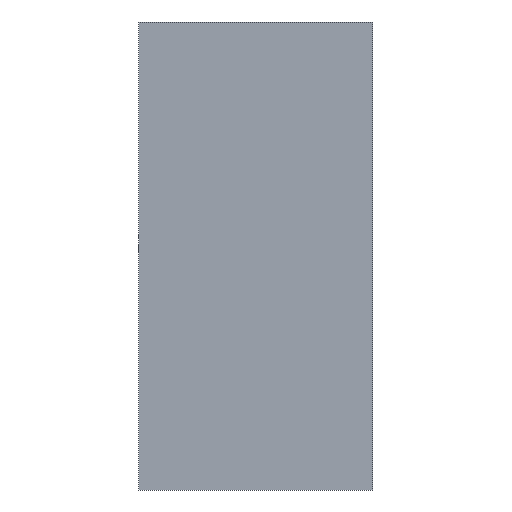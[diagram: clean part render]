
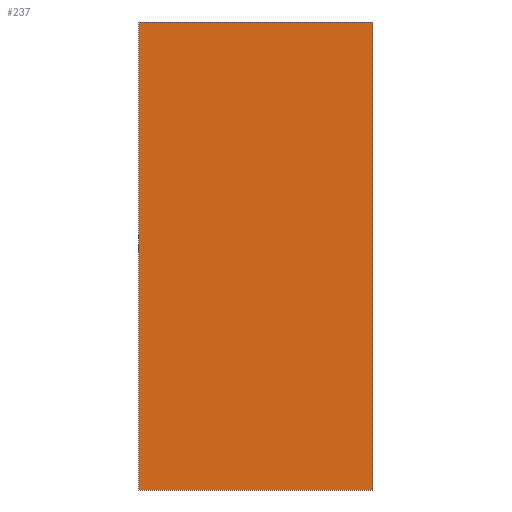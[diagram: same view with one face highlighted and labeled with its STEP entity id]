
A CAD part, front view. The second image highlights one B-rep face of the part: STEP entity #237.
In plain terms, the highlighted planar face has unit normal (0, -1, 0).
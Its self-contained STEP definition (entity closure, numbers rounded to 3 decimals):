
#21 = EDGE_CURVE('',#22,#24,#26,.T.);
#22 = VERTEX_POINT('',#23);
#23 = CARTESIAN_POINT('',(1370.,-180.,-230.));
#24 = VERTEX_POINT('',#25);
#25 = CARTESIAN_POINT('',(1370.,-180.,-170.));
#26 = SURFACE_CURVE('',#27,(#31,#43),.PCURVE_S1.);
#27 = LINE('',#28,#29);
#28 = CARTESIAN_POINT('',(1370.,-180.,-230.));
#29 = VECTOR('',#30,1.);
#30 = DIRECTION('',(0.,0.,1.));
#31 = PCURVE('',#32,#37);
#32 = PLANE('',#33);
#33 = AXIS2_PLACEMENT_3D('',#34,#35,#36);
#34 = CARTESIAN_POINT('',(1370.,-180.,-230.));
#35 = DIRECTION('',(1.,0.,0.));
#36 = DIRECTION('',(0.,0.,1.));
#37 = DEFINITIONAL_REPRESENTATION('',(#38),#42);
#38 = LINE('',#39,#40);
#39 = CARTESIAN_POINT('',(0.,0.));
#40 = VECTOR('',#41,1.);
#41 = DIRECTION('',(1.,0.));
#42 = ( GEOMETRIC_REPRESENTATION_CONTEXT(2) 
PARAMETRIC_REPRESENTATION_CONTEXT() REPRESENTATION_CONTEXT('2D SPACE',''
  ) );
#43 = PCURVE('',#44,#49);
#44 = PLANE('',#45);
#45 = AXIS2_PLACEMENT_3D('',#46,#47,#48);
#46 = CARTESIAN_POINT('',(1370.,-180.,-230.));
#47 = DIRECTION('',(0.,1.,0.));
#48 = DIRECTION('',(0.,0.,1.));
#49 = DEFINITIONAL_REPRESENTATION('',(#50),#54);
#50 = LINE('',#51,#52);
#51 = CARTESIAN_POINT('',(0.,0.));
#52 = VECTOR('',#53,1.);
#53 = DIRECTION('',(1.,0.));
#54 = ( GEOMETRIC_REPRESENTATION_CONTEXT(2) 
PARAMETRIC_REPRESENTATION_CONTEXT() REPRESENTATION_CONTEXT('2D SPACE',''
  ) );
#72 = PLANE('',#73);
#73 = AXIS2_PLACEMENT_3D('',#74,#75,#76);
#74 = CARTESIAN_POINT('',(1370.,-180.,-230.));
#75 = DIRECTION('',(0.,0.,1.));
#76 = DIRECTION('',(1.,0.,0.));
#126 = PLANE('',#127);
#127 = AXIS2_PLACEMENT_3D('',#128,#129,#130);
#128 = CARTESIAN_POINT('',(1370.,-180.,-170.));
#129 = DIRECTION('',(0.,0.,1.));
#130 = DIRECTION('',(1.,0.,0.));
#141 = EDGE_CURVE('',#142,#144,#146,.T.);
#142 = VERTEX_POINT('',#143);
#143 = CARTESIAN_POINT('',(1400.,-180.,-230.));
#144 = VERTEX_POINT('',#145);
#145 = CARTESIAN_POINT('',(1400.,-180.,-170.));
#146 = SURFACE_CURVE('',#147,(#151,#163),.PCURVE_S1.);
#147 = LINE('',#148,#149);
#148 = CARTESIAN_POINT('',(1400.,-180.,-230.));
#149 = VECTOR('',#150,1.);
#150 = DIRECTION('',(0.,0.,1.));
#151 = PCURVE('',#152,#157);
#152 = PLANE('',#153);
#153 = AXIS2_PLACEMENT_3D('',#154,#155,#156);
#154 = CARTESIAN_POINT('',(1400.,-180.,-230.));
#155 = DIRECTION('',(1.,0.,0.));
#156 = DIRECTION('',(0.,0.,1.));
#157 = DEFINITIONAL_REPRESENTATION('',(#158),#162);
#158 = LINE('',#159,#160);
#159 = CARTESIAN_POINT('',(0.,0.));
#160 = VECTOR('',#161,1.);
#161 = DIRECTION('',(1.,0.));
#162 = ( GEOMETRIC_REPRESENTATION_CONTEXT(2) 
PARAMETRIC_REPRESENTATION_CONTEXT() REPRESENTATION_CONTEXT('2D SPACE',''
  ) );
#163 = PCURVE('',#44,#164);
#164 = DEFINITIONAL_REPRESENTATION('',(#165),#169);
#165 = LINE('',#166,#167);
#166 = CARTESIAN_POINT('',(0.,30.));
#167 = VECTOR('',#168,1.);
#168 = DIRECTION('',(1.,0.));
#169 = ( GEOMETRIC_REPRESENTATION_CONTEXT(2) 
PARAMETRIC_REPRESENTATION_CONTEXT() REPRESENTATION_CONTEXT('2D SPACE',''
  ) );
#237 = ADVANCED_FACE('',(#238),#44,.F.);
#238 = FACE_BOUND('',#239,.F.);
#239 = EDGE_LOOP('',(#240,#261,#262,#283));
#240 = ORIENTED_EDGE('',*,*,#241,.F.);
#241 = EDGE_CURVE('',#22,#142,#242,.T.);
#242 = SURFACE_CURVE('',#243,(#247,#254),.PCURVE_S1.);
#243 = LINE('',#244,#245);
#244 = CARTESIAN_POINT('',(1370.,-180.,-230.));
#245 = VECTOR('',#246,1.);
#246 = DIRECTION('',(1.,0.,0.));
#247 = PCURVE('',#44,#248);
#248 = DEFINITIONAL_REPRESENTATION('',(#249),#253);
#249 = LINE('',#250,#251);
#250 = CARTESIAN_POINT('',(0.,0.));
#251 = VECTOR('',#252,1.);
#252 = DIRECTION('',(0.,1.));
#253 = ( GEOMETRIC_REPRESENTATION_CONTEXT(2) 
PARAMETRIC_REPRESENTATION_CONTEXT() REPRESENTATION_CONTEXT('2D SPACE',''
  ) );
#254 = PCURVE('',#72,#255);
#255 = DEFINITIONAL_REPRESENTATION('',(#256),#260);
#256 = LINE('',#257,#258);
#257 = CARTESIAN_POINT('',(0.,0.));
#258 = VECTOR('',#259,1.);
#259 = DIRECTION('',(1.,0.));
#260 = ( GEOMETRIC_REPRESENTATION_CONTEXT(2) 
PARAMETRIC_REPRESENTATION_CONTEXT() REPRESENTATION_CONTEXT('2D SPACE',''
  ) );
#261 = ORIENTED_EDGE('',*,*,#21,.T.);
#262 = ORIENTED_EDGE('',*,*,#263,.T.);
#263 = EDGE_CURVE('',#24,#144,#264,.T.);
#264 = SURFACE_CURVE('',#265,(#269,#276),.PCURVE_S1.);
#265 = LINE('',#266,#267);
#266 = CARTESIAN_POINT('',(1370.,-180.,-170.));
#267 = VECTOR('',#268,1.);
#268 = DIRECTION('',(1.,0.,0.));
#269 = PCURVE('',#44,#270);
#270 = DEFINITIONAL_REPRESENTATION('',(#271),#275);
#271 = LINE('',#272,#273);
#272 = CARTESIAN_POINT('',(60.,0.));
#273 = VECTOR('',#274,1.);
#274 = DIRECTION('',(0.,1.));
#275 = ( GEOMETRIC_REPRESENTATION_CONTEXT(2) 
PARAMETRIC_REPRESENTATION_CONTEXT() REPRESENTATION_CONTEXT('2D SPACE',''
  ) );
#276 = PCURVE('',#126,#277);
#277 = DEFINITIONAL_REPRESENTATION('',(#278),#282);
#278 = LINE('',#279,#280);
#279 = CARTESIAN_POINT('',(0.,0.));
#280 = VECTOR('',#281,1.);
#281 = DIRECTION('',(1.,0.));
#282 = ( GEOMETRIC_REPRESENTATION_CONTEXT(2) 
PARAMETRIC_REPRESENTATION_CONTEXT() REPRESENTATION_CONTEXT('2D SPACE',''
  ) );
#283 = ORIENTED_EDGE('',*,*,#141,.F.);
